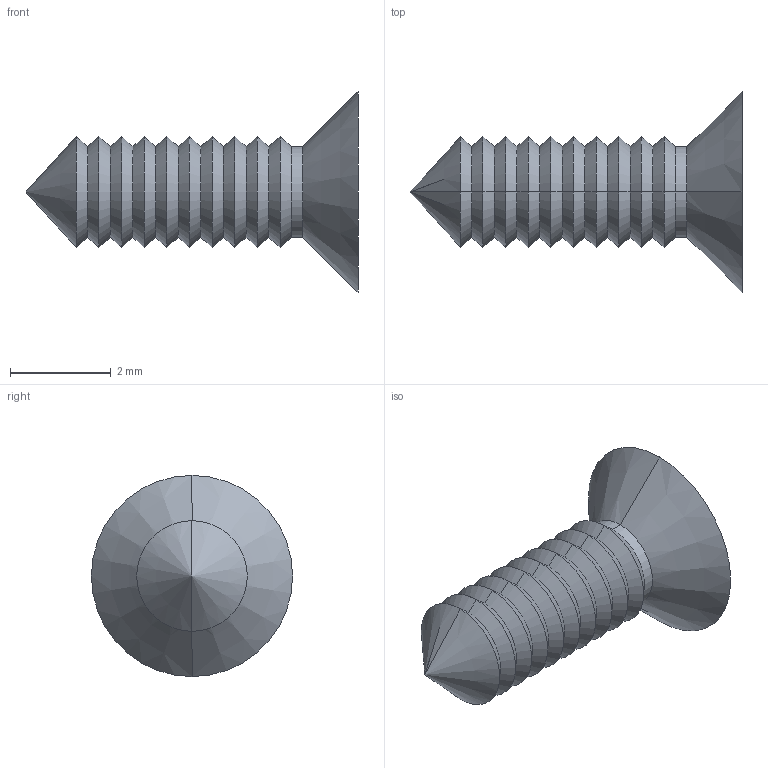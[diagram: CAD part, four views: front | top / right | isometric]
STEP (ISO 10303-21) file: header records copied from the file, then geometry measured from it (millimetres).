
FILE_DESCRIPTION (( 'STEP AP214' ), '1' );
FILE_NAME ('Cargol PP113 2,2x6,6.STEP', '2017-11-10T11:48:11', ( 'aaa' ), ( '' ), 'SwSTEP 2.0', 'SolidWorks 2013', '' );
FILE_SCHEMA (( 'AUTOMOTIVE_DESIGN' ));
Length unit declared in the file: millimetre
Products named in the file (1): Cargol  PP113 2,2x6,6
Bounding box: 6.6 x 4 x 4 mm (x, y, z)
Volume: 22.1 mm3; surface area: 72.6 mm2
Topology: 1 solids, 1 shells, 58 faces, 126 edges, 69 vertices
Faces by surface type: cone 42, plane 14, cylinder 2
Entity records: 1558 total; most frequent: DIRECTION 286, CARTESIAN_POINT 252, ORIENTED_EDGE 248, EDGE_CURVE 124, AXIS2_PLACEMENT_3D 103, LINE 80, VECTOR 80, VERTEX_POINT 69
